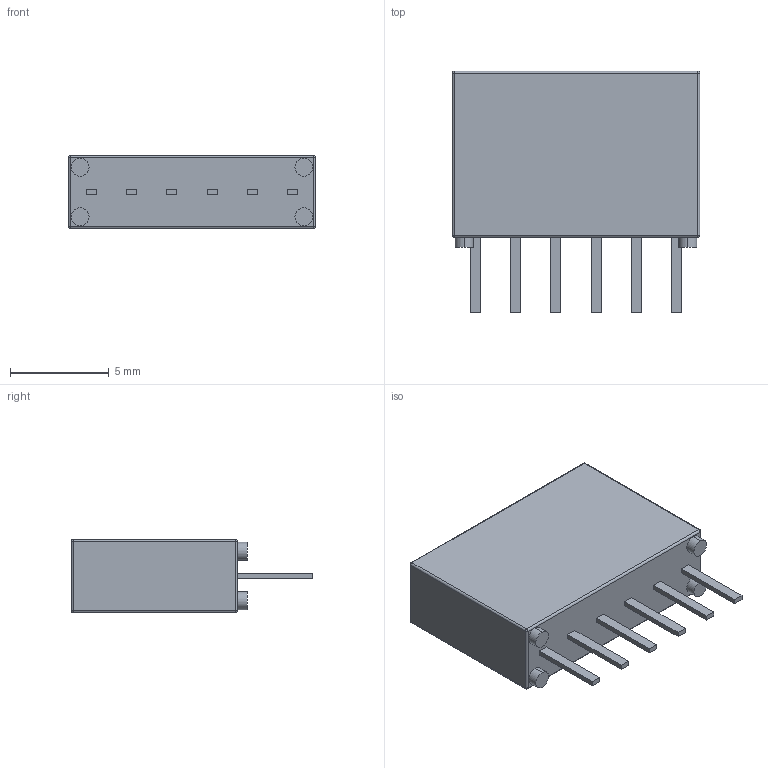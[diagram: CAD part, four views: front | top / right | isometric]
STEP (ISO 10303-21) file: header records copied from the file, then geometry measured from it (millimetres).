
FILE_DESCRIPTION (( 'STEP AP203' ), '1' );
FILE_NAME ('113-2-A.STEP', '2010-06-29T11:05:53', ( ' ' ), ( '' ), 'SwSTEP 2.0', 'SolidWorks 2009', '' );
FILE_SCHEMA (( 'CONFIG_CONTROL_DESIGN' ));
Length unit declared in the file: millimetre
Products named in the file (1): 113-2-A
Bounding box: 12.5 x 12.2 x 3.7 mm (x, y, z)
Volume: 392.2 mm3; surface area: 400.7 mm2
Topology: 1 solids, 1 shells, 294 faces, 755 edges, 490 vertices
Faces by surface type: plane 215, bspline 49, cylinder 22, sphere 8
Entity records: 11610 total; most frequent: CARTESIAN_POINT 4725, ORIENTED_EDGE 1494, DIRECTION 1185, EDGE_CURVE 747, VECTOR 605, LINE 605, VERTEX_POINT 490, EDGE_LOOP 329
